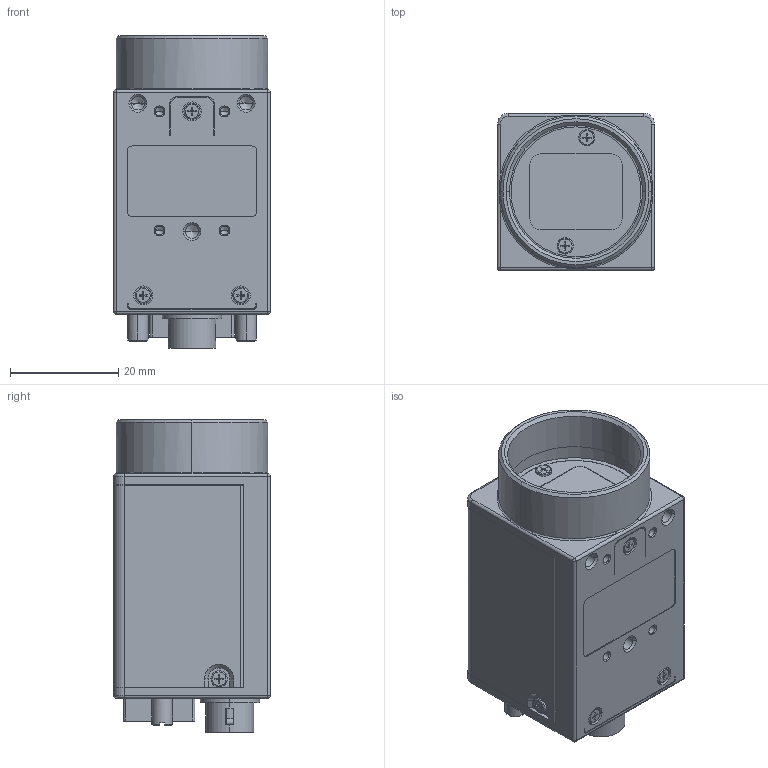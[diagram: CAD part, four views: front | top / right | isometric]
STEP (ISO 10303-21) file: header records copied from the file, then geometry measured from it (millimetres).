
FILE_DESCRIPTION((''),'2;1');
FILE_NAME('GOX-12401C-PGE_MOCK','2021-04-27T16:31:43',('aso'),(''),'CREO PARAMETRIC BY PTC INC, 2019352','CREO PARAMETRIC BY PTC INC, 2019352','');
FILE_SCHEMA(('AUTOMOTIVE_DESIGN { 1 0 10303 214 1 1 1 1 }'));
Length unit declared in the file: millimetre
Products named in the file (1): GOX-12401C-PGE_MOCK
Bounding box: 29 x 29 x 57.8 mm (x, y, z)
Volume: 35804.3 mm3; surface area: 10890.9 mm2
Topology: 1 solids, 3 shells, 654 faces, 1747 edges, 1104 vertices
Faces by surface type: plane 347, cylinder 180, cone 81, torus 24, sphere 14, bspline 8
Entity records: 24976 total; most frequent: CARTESIAN_POINT 4106, DIRECTION 3477, ORIENTED_EDGE 3416, EDGE_CURVE 1709, AXIS2_PLACEMENT_3D 1204, VERTEX_POINT 1104, VECTOR 1069, LINE 1069
